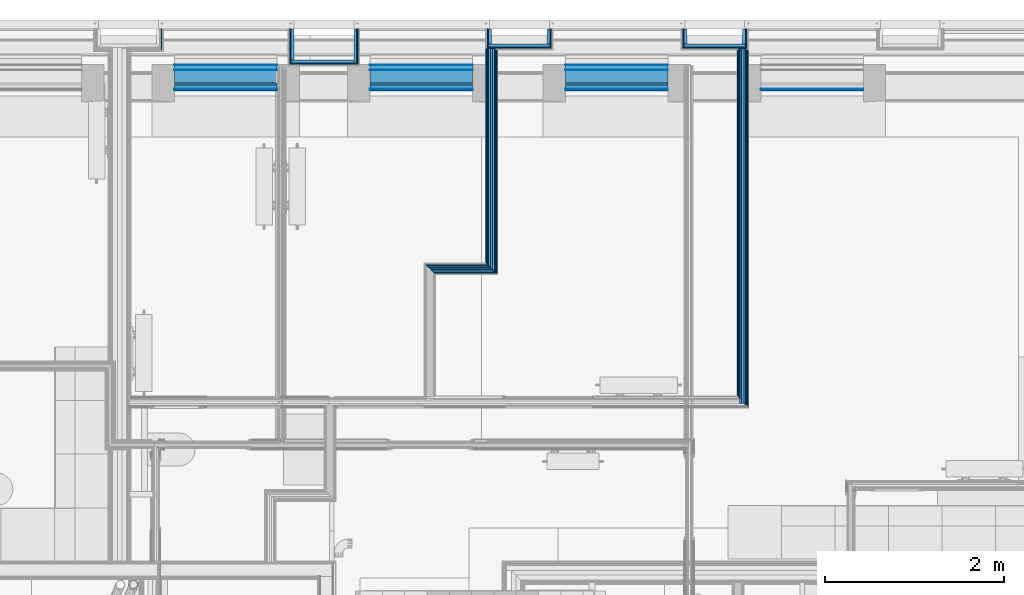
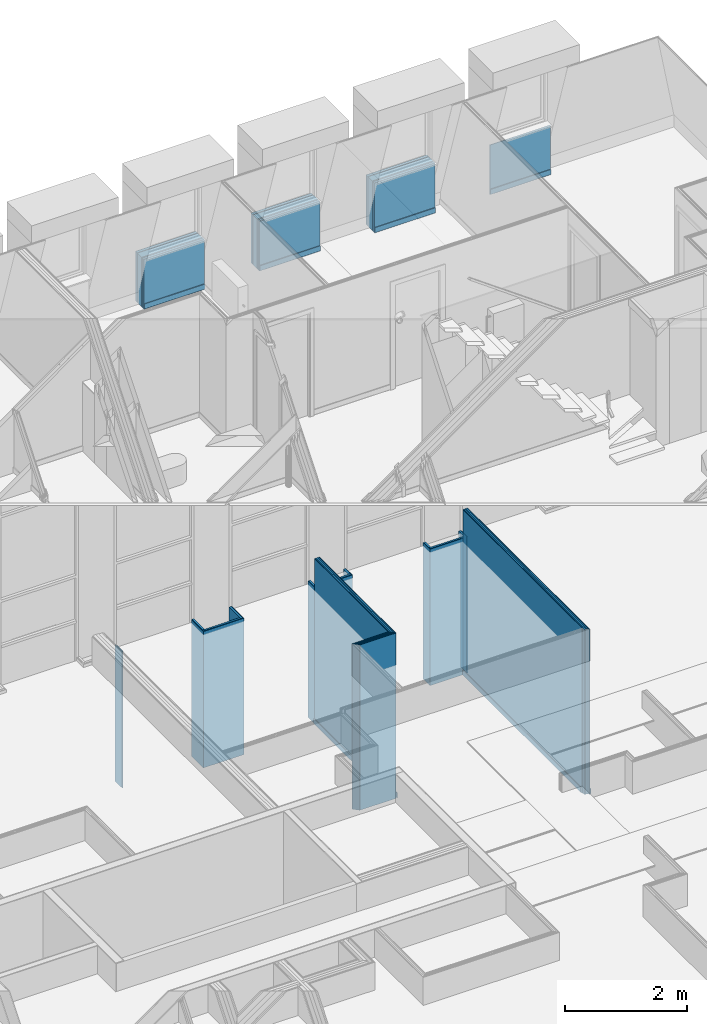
# One storey, part 45 of 169: 64 building element parts, 17 elements without a shape of their own.
"""IFC2X3 building model written with IfcOpenShell, lengths in metres."""

import ifcopenshell
import ifcopenshell.guid

model = None  # the IFC model being written
_history = None  # IfcOwnerHistory: only IFC2X3 demands one
_inside = {}  # id of a spatial element -> (the spatial element, [elements in it])
_under = {}  # id of a project, library or spatial element -> (it, [spatial elements below it])
_declared = {}  # id of a project -> (the project, [libraries it declares])
_typed = {}  # id of a type object -> (the type object, [elements of that type])
_made_of = {}  # id of a material, layer set ... -> (it, [elements and type objects made of it])


def new_model(schema):
    """Start an empty IFC model of exactly this schema.

    Asked for "IFC4X3", IfcOpenShell would pick the latest addendum, in which some entities
    have other attributes; the version numbers below select the first issue.
    IFC2X3 requires an IfcOwnerHistory on every rooted entity: one is made here for all.
    """
    global model, _history
    if schema == "IFC4X3":
        model = ifcopenshell.file(schema_version=(4, 3, 0, 0))
    else:
        model = ifcopenshell.file(schema=schema)
    _inside.clear()
    _under.clear()
    _declared.clear()
    _typed.clear()
    _made_of.clear()
    _history = None
    if model.schema == "IFC2X3":
        org = make("IfcOrganization", Name="unknown")
        user = make(
            "IfcPersonAndOrganization",
            ThePerson=make("IfcPerson", FamilyName="unknown"),
            TheOrganization=org,
        )
        app = make(
            "IfcApplication",
            ApplicationDeveloper=org,
            Version="unknown",
            ApplicationFullName="unknown",
            ApplicationIdentifier="unknown",
        )
        _history = make(
            "IfcOwnerHistory",
            OwningUser=user,
            OwningApplication=app,
            ChangeAction="ADDED",
            CreationDate=0,
        )
    return model


def make(cls, **values):
    """One entity of the class cls with the attributes given. An attribute that is None is left unset."""
    return model.create_entity(
        cls, **{name: value for name, value in values.items() if value is not None}
    )


def entity(cls, *values):
    """Any entity or typed value of the class cls, its attributes in the order of the schema. None: left unset."""
    e = model.create_entity(cls)
    for i, value in enumerate(values):
        if value is not None:
            e[i] = value
    return e


def rooted(cls, **values):
    """An entity with a GlobalId (a new one), such as an element, a storey or a relation."""
    return make(cls, GlobalId=ifcopenshell.guid.new(), OwnerHistory=_history, **values)


def si_unit(unit_type, name, prefix=None):
    """IfcSIUnit, for example si_unit("LENGTHUNIT", "METRE", prefix="MILLI")."""
    return make("IfcSIUnit", UnitType=unit_type, Prefix=prefix, Name=name)


def converted_unit(unit_type, name, factor, base, dimensions=None, offset=None):
    """IfcConversionBasedUnit, such as the inch: factor (a typed value) times the base unit."""
    return make(
        "IfcConversionBasedUnit"
        if offset is None
        else "IfcConversionBasedUnitWithOffset",
        ConversionOffset=offset,
        Dimensions=None
        if dimensions is None
        else entity("IfcDimensionalExponents", *dimensions),
        UnitType=unit_type,
        Name=name,
        ConversionFactor=make(
            "IfcMeasureWithUnit", ValueComponent=factor, UnitComponent=base
        ),
    )


def derived_unit(unit_type, elements):
    """IfcDerivedUnit: a product of units, each with its exponent."""
    return make(
        "IfcDerivedUnit",
        Elements=[
            make("IfcDerivedUnitElement", Unit=unit, Exponent=power)
            for unit, power in elements
        ],
        UnitType=unit_type,
    )


def money_unit(currency):
    """IfcMonetaryUnit."""
    return make("IfcMonetaryUnit", Currency=currency)


def assignment(units):
    """IfcUnitAssignment: the units of a project."""
    return None if units is None else make("IfcUnitAssignment", Units=units)


def point(xyz):
    """IfcCartesianPoint."""
    return None if xyz is None else make("IfcCartesianPoint", Coordinates=xyz)


def direction(xyz):
    """IfcDirection."""
    return None if xyz is None else make("IfcDirection", DirectionRatios=xyz)


def frame(location, z_axis=None, x_axis=None):
    """IfcAxis2Placement3D, a coordinate frame: its origin and axes. An axis left out is left unset."""
    return make(
        "IfcAxis2Placement3D",
        Location=point(location),
        Axis=direction(z_axis),
        RefDirection=direction(x_axis),
    )


def frame_2d(location, x_axis=None):
    """IfcAxis2Placement2D, a coordinate frame in the plane: its origin and x axis."""
    return make(
        "IfcAxis2Placement2D", Location=point(location), RefDirection=direction(x_axis)
    )


def origin_with_axes():
    """The frame at (0, 0, 0) with the z axis (0, 0, 1) and the x axis (1, 0, 0) written out."""
    return frame((0.0, 0.0, 0.0), z_axis=(0.0, 0.0, 1.0), x_axis=(1.0, 0.0, 0.0))


def place(relative_to, where):
    """IfcLocalPlacement: puts the frame where relative to a parent placement (None: the world)."""
    return make(
        "IfcLocalPlacement", PlacementRelTo=relative_to, RelativePlacement=where
    )


def context(
    kind, dimensions, precision=None, world=None, true_north=None, identifier=None
):
    """IfcGeometricRepresentationContext, for example the 3D "Model" context."""
    return make(
        "IfcGeometricRepresentationContext",
        ContextIdentifier=identifier,
        ContextType=kind,
        CoordinateSpaceDimension=dimensions,
        Precision=precision,
        WorldCoordinateSystem=world,
        TrueNorth=true_north,
    )


def subcontext(parent, identifier, kind, view, scale=None):
    """IfcGeometricRepresentationSubContext, for example "Body" below "Model"."""
    return make(
        "IfcGeometricRepresentationSubContext",
        ContextIdentifier=identifier,
        ContextType=kind,
        ParentContext=parent,
        TargetScale=scale,
        TargetView=view,
    )


def project(units=None, contexts=None):
    """IfcProject with its units and contexts."""
    return rooted(
        "IfcProject",
        Name="project",
        RepresentationContexts=contexts,
        UnitsInContext=assignment(units),
    )


def spatial(cls, under=None, at=None, **own):
    """A site, building, storey or space (cls), placed at a placement, below another one or the project."""
    s = rooted(cls, ObjectPlacement=at, **own)
    if under is not None:
        _under.setdefault(under.id(), (under, []))[1].append(s)
    return s


def polyline(points):
    """IfcPolyline through the points."""
    return make("IfcPolyline", Points=[point(p) for p in points])


def profile(cls, at=None, kind="AREA", **sizes):
    """A parametric profile (cls). Its sizes go by their IFC names, for example OverallWidth=200.0."""
    return make(cls, ProfileType=kind, Position=at, **sizes)


def rectangle(**sizes):
    """IfcRectangleProfileDef."""
    return profile("IfcRectangleProfileDef", **sizes)


def outline(outer, holes=None, kind="AREA"):
    """IfcArbitraryClosedProfileDef: a profile drawn as a closed curve; with holes, ...WithVoids."""
    if holes is None:
        return make("IfcArbitraryClosedProfileDef", ProfileType=kind, OuterCurve=outer)
    return make(
        "IfcArbitraryProfileDefWithVoids",
        ProfileType=kind,
        OuterCurve=outer,
        InnerCurves=holes,
    )


def extrude(swept, where, along, depth):
    """IfcExtrudedAreaSolid: the profile swept, set in the frame where, extruded along a direction by depth."""
    return make(
        "IfcExtrudedAreaSolid",
        SweptArea=swept,
        Position=where,
        ExtrudedDirection=direction(along),
        Depth=depth,
    )


def shape(context_of_items, identifier, shape_type, items):
    """IfcShapeRepresentation: the items that make up one representation, for example the "Body"."""
    return make(
        "IfcShapeRepresentation",
        ContextOfItems=context_of_items,
        RepresentationIdentifier=identifier,
        RepresentationType=shape_type,
        Items=items,
    )


def material(Name=None, Category=None):
    """IfcMaterial."""
    return make("IfcMaterial", Name=Name, Category=Category)


def made_of(thing, what):
    """Note that an element or type object is made of a material, layer set ...; save() writes the relation."""
    if what is not None:
        _made_of.setdefault(what.id(), (what, []))[1].append(thing)
    return thing


def type_object(cls, material=None, **own):
    """A type object (cls), such as IfcWallType, which elements share."""
    return made_of(rooted(cls, **own), material)


def element(
    cls,
    number,
    at=None,
    inside=None,
    cuts=None,
    type_object=None,
    material=None,
    context=None,
    identifier="Body",
    shape_type=None,
    held_by="IfcProductDefinitionShape",
    body=None,
    shapes=None,
    **own,
):
    """One element of the class cls, such as IfcWall. Its Tag is "e" and its number.

    at: its placement. inside: the storey or other place that contains it. cuts: it is an
    opening in that element (IfcRelVoidsElement). A single representation is given by context,
    identifier, shape_type and body (its items); several are given by shapes. held_by: the class
    of the entity that holds the representations. save() writes the other relations.
    """
    e = rooted(cls, Tag="e%d" % number, ObjectPlacement=at, **own)
    if body is not None:
        shapes = [shape(context, identifier, shape_type, body)]
    if shapes is not None:
        e.Representation = make(held_by, Representations=shapes)
    if inside is not None:
        _inside.setdefault(inside.id(), (inside, []))[1].append(e)
    if cuts is not None:
        rooted(
            "IfcRelVoidsElement", RelatingBuildingElement=cuts, RelatedOpeningElement=e
        )
    if type_object is not None:
        _typed.setdefault(type_object.id(), (type_object, []))[1].append(e)
    return made_of(e, material)


def aggregate(whole, parts):
    """IfcRelAggregates: a whole, such as a stair, and the parts it consists of."""
    return rooted("IfcRelAggregates", RelatingObject=whole, RelatedObjects=parts)


def save(model, path):
    """Write the relations noted so far, then the file.

    IfcRelAggregates (storeys below a building ...), IfcRelContainedInSpatialStructure (elements
    in a storey), IfcRelDefinesByType, IfcRelAssociatesMaterial and IfcRelDeclares: one each for
    every whole, place, type object, material and project.
    """
    for whole, parts in _under.values():
        aggregate(whole, parts)
    for where, things in _inside.values():
        rooted(
            "IfcRelContainedInSpatialStructure",
            RelatedElements=things,
            RelatingStructure=where,
        )
    for kind, things in _typed.values():
        rooted("IfcRelDefinesByType", RelatedObjects=things, RelatingType=kind)
    for what, things in _made_of.values():
        rooted("IfcRelAssociatesMaterial", RelatedObjects=things, RelatingMaterial=what)
    for by, libraries in _declared.values():
        rooted("IfcRelDeclares", RelatingContext=by, RelatedDefinitions=libraries)
    model.write(path)


model = new_model("IFC2X3")

# Units and contexts
model_context = context("Model", 3, precision=1e-05, world=origin_with_axes(), true_north=direction((0.0, 1.0)))
body_context = subcontext(model_context, "Body", "Model", "MODEL_VIEW", scale=1.0)
ifc_project = project(units=[si_unit("LENGTHUNIT", "METRE"), si_unit("AREAUNIT", "SQUARE_METRE"), si_unit("VOLUMEUNIT", "CUBIC_METRE"), si_unit("ABSORBEDDOSEUNIT", "GRAY"), si_unit("AMOUNTOFSUBSTANCEUNIT", "MOLE"), si_unit("DOSEEQUIVALENTUNIT", "SIEVERT"), si_unit("ELECTRICCAPACITANCEUNIT", "FARAD"), si_unit("ELECTRICCHARGEUNIT", "COULOMB"), si_unit("ELECTRICCONDUCTANCEUNIT", "SIEMENS"), si_unit("ELECTRICCURRENTUNIT", "AMPERE"), si_unit("ELECTRICRESISTANCEUNIT", "OHM"), si_unit("ELECTRICVOLTAGEUNIT", "VOLT"), si_unit("ENERGYUNIT", "JOULE"), si_unit("FORCEUNIT", "NEWTON"), si_unit("FREQUENCYUNIT", "HERTZ"), si_unit("ILLUMINANCEUNIT", "LUX"), si_unit("INDUCTANCEUNIT", "HENRY"), si_unit("LUMINOUSFLUXUNIT", "LUMEN"), si_unit("LUMINOUSINTENSITYUNIT", "CANDELA"), si_unit("MAGNETICFLUXDENSITYUNIT", "TESLA"), si_unit("MAGNETICFLUXUNIT", "WEBER"), si_unit("MASSUNIT", "GRAM"), converted_unit("PLANEANGLEUNIT", "degree", entity("IfcReal", 0.0174532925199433), si_unit("PLANEANGLEUNIT", "RADIAN"), dimensions=[0, 0, 0, 0, 0, 0, 0]), si_unit("POWERUNIT", "WATT"), si_unit("PRESSUREUNIT", "PASCAL"), si_unit("RADIOACTIVITYUNIT", "BECQUEREL"), si_unit("SOLIDANGLEUNIT", "STERADIAN"), si_unit("THERMODYNAMICTEMPERATUREUNIT", "KELVIN"), si_unit("TIMEUNIT", "SECOND"), derived_unit("ACCELERATIONUNIT", [(si_unit("LENGTHUNIT", "METRE"), 1), (si_unit("TIMEUNIT", "SECOND"), -2)]), derived_unit("ANGULARVELOCITYUNIT", [(converted_unit("PLANEANGLEUNIT", "degree", entity("IfcReal", 0.0174532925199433), si_unit("PLANEANGLEUNIT", "RADIAN"), dimensions=[0, 0, 0, 0, 0, 0, 0]), 1), (si_unit("TIMEUNIT", "SECOND"), -1)]), derived_unit("CURVATUREUNIT", [(converted_unit("PLANEANGLEUNIT", "degree", entity("IfcReal", 0.0174532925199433), si_unit("PLANEANGLEUNIT", "RADIAN"), dimensions=[0, 0, 0, 0, 0, 0, 0]), 1), (si_unit("LENGTHUNIT", "METRE"), -1)]), derived_unit("DYNAMICVISCOSITYUNIT", [(si_unit("PRESSUREUNIT", "PASCAL"), 1), (si_unit("TIMEUNIT", "SECOND"), 1)]), derived_unit("HEATFLUXDENSITYUNIT", [(si_unit("POWERUNIT", "WATT"), 1), (si_unit("LENGTHUNIT", "METRE"), -2)]), derived_unit("HEATINGVALUEUNIT", [(si_unit("ENERGYUNIT", "JOULE"), 1), (si_unit("MASSUNIT", "GRAM"), -1)]), derived_unit("INTEGERCOUNTRATEUNIT", [(si_unit("TIMEUNIT", "SECOND"), -1)]), derived_unit("IONCONCENTRATIONUNIT", [(si_unit("MASSUNIT", "GRAM"), 1), (si_unit("VOLUMEUNIT", "CUBIC_METRE"), -1)]), derived_unit("ISOTHERMALMOISTURECAPACITYUNIT", [(si_unit("VOLUMEUNIT", "CUBIC_METRE"), 1), (si_unit("MASSUNIT", "GRAM"), -1)]), derived_unit("KINEMATICVISCOSITYUNIT", [(si_unit("AREAUNIT", "SQUARE_METRE"), 1), (si_unit("TIMEUNIT", "SECOND"), -1)]), derived_unit("LINEARFORCEUNIT", [(si_unit("FORCEUNIT", "NEWTON"), 1), (si_unit("LENGTHUNIT", "METRE"), -1)]), derived_unit("LINEARMOMENTUNIT", [(si_unit("FORCEUNIT", "NEWTON"), 1), (si_unit("LENGTHUNIT", "METRE"), -1)]), derived_unit("LINEARSTIFFNESSUNIT", [(si_unit("FORCEUNIT", "NEWTON"), 1), (si_unit("LENGTHUNIT", "METRE"), -1)]), derived_unit("LINEARVELOCITYUNIT", [(si_unit("LENGTHUNIT", "METRE"), 1), (si_unit("TIMEUNIT", "SECOND"), -1)]), derived_unit("LUMINOUSINTENSITYDISTRIBUTIONUNIT", [(si_unit("LUMINOUSINTENSITYUNIT", "CANDELA"), 1), (si_unit("LUMINOUSFLUXUNIT", "LUMEN"), -1)]), derived_unit("MASSDENSITYUNIT", [(si_unit("MASSUNIT", "GRAM"), 1), (si_unit("VOLUMEUNIT", "CUBIC_METRE"), -1)]), derived_unit("MASSFLOWRATEUNIT", [(si_unit("MASSUNIT", "GRAM"), 1), (si_unit("TIMEUNIT", "SECOND"), -1)]), derived_unit("MASSPERLENGTHUNIT", [(si_unit("MASSUNIT", "GRAM"), 1), (si_unit("LENGTHUNIT", "METRE"), -1)]), derived_unit("MODULUSOFELASTICITYUNIT", [(si_unit("FORCEUNIT", "NEWTON"), 1), (si_unit("AREAUNIT", "SQUARE_METRE"), -1)]), derived_unit("MODULUSOFLINEARSUBGRADEREACTIONUNIT", [(si_unit("FORCEUNIT", "NEWTON"), 1), (si_unit("LENGTHUNIT", "METRE"), -2)]), derived_unit("MODULUSOFROTATIONALSUBGRADEREACTIONUNIT", [(si_unit("FORCEUNIT", "NEWTON"), 1), (si_unit("LENGTHUNIT", "METRE"), 1)]), derived_unit("MODULUSOFSUBGRADEREACTIONUNIT", [(si_unit("FORCEUNIT", "NEWTON"), 1), (si_unit("VOLUMEUNIT", "CUBIC_METRE"), -1)]), derived_unit("MOISTUREDIFFUSIVITYUNIT", [(si_unit("VOLUMEUNIT", "CUBIC_METRE"), 1), (si_unit("TIMEUNIT", "SECOND"), -1)]), derived_unit("MOLECULARWEIGHTUNIT", [(si_unit("MASSUNIT", "GRAM"), 1), (si_unit("AMOUNTOFSUBSTANCEUNIT", "MOLE"), -1)]), derived_unit("PLANARFORCEUNIT", [(si_unit("FORCEUNIT", "NEWTON"), 1), (si_unit("LENGTHUNIT", "METRE"), -2)]), derived_unit("ROTATIONALFREQUENCYUNIT", [(si_unit("TIMEUNIT", "SECOND"), -1)]), derived_unit("ROTATIONALMASSUNIT", [(si_unit("MASSUNIT", "GRAM"), 1), (si_unit("LENGTHUNIT", "METRE"), 2)]), derived_unit("ROTATIONALSTIFFNESSUNIT", [(si_unit("FORCEUNIT", "NEWTON"), 1), (si_unit("LENGTHUNIT", "METRE"), 1), (converted_unit("PLANEANGLEUNIT", "degree", entity("IfcReal", 0.0174532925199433), si_unit("PLANEANGLEUNIT", "RADIAN"), dimensions=[0, 0, 0, 0, 0, 0, 0]), -1)]), derived_unit("SECTIONAREAINTEGRALUNIT", [(si_unit("LENGTHUNIT", "METRE"), 5)]), derived_unit("SECTIONMODULUSUNIT", [(si_unit("LENGTHUNIT", "METRE"), 3)]), derived_unit("SHEARMODULUSUNIT", [(si_unit("FORCEUNIT", "NEWTON"), 1), (si_unit("AREAUNIT", "SQUARE_METRE"), -1)]), derived_unit("SOUNDPOWERUNIT", [(si_unit("ENERGYUNIT", "JOULE"), 1), (si_unit("TIMEUNIT", "SECOND"), -1)]), derived_unit("SPECIFICHEATCAPACITYUNIT", [(si_unit("FORCEUNIT", "NEWTON"), 1), (si_unit("MASSUNIT", "GRAM"), -1), (si_unit("THERMODYNAMICTEMPERATUREUNIT", "KELVIN"), -1)]), derived_unit("TEMPERATUREGRADIENTUNIT", [(si_unit("THERMODYNAMICTEMPERATUREUNIT", "KELVIN"), 1), (si_unit("LENGTHUNIT", "METRE"), -1)]), derived_unit("THERMALADMITTANCEUNIT", [(si_unit("POWERUNIT", "WATT"), 1), (si_unit("AREAUNIT", "SQUARE_METRE"), -1), (si_unit("THERMODYNAMICTEMPERATUREUNIT", "KELVIN"), -1)]), derived_unit("THERMALCONDUCTANCEUNIT", [(si_unit("POWERUNIT", "WATT"), 1), (si_unit("LENGTHUNIT", "METRE"), -1), (si_unit("THERMODYNAMICTEMPERATUREUNIT", "KELVIN"), -1)]), derived_unit("THERMALEXPANSIONCOEFFICIENTUNIT", [(si_unit("THERMODYNAMICTEMPERATUREUNIT", "KELVIN"), -1)]), derived_unit("THERMALRESISTANCEUNIT", [(si_unit("AREAUNIT", "SQUARE_METRE"), 1), (si_unit("POWERUNIT", "WATT"), -1)]), derived_unit("THERMALTRANSMITTANCEUNIT", [(si_unit("POWERUNIT", "WATT"), 1), (si_unit("AREAUNIT", "SQUARE_METRE"), -1), (si_unit("THERMODYNAMICTEMPERATUREUNIT", "KELVIN"), -1)]), derived_unit("TORQUEUNIT", [(si_unit("FORCEUNIT", "NEWTON"), 1), (si_unit("LENGTHUNIT", "METRE"), 1)]), derived_unit("VAPORPERMEABILITYUNIT", [(si_unit("MASSUNIT", "GRAM"), 1), (si_unit("TIMEUNIT", "SECOND"), -1)]), derived_unit("VOLUMETRICFLOWRATEUNIT", [(si_unit("VOLUMEUNIT", "CUBIC_METRE"), 1), (si_unit("TIMEUNIT", "SECOND"), -1)]), derived_unit("WARPINGCONSTANTUNIT", [(si_unit("LENGTHUNIT", "METRE"), 6)]), derived_unit("WARPINGMOMENTUNIT", [(si_unit("FORCEUNIT", "NEWTON"), 1), (si_unit("LENGTHUNIT", "METRE"), 2)]), money_unit("GBP")], contexts=[model_context])

# Site, building, storey
site_placement = place(None, origin_with_axes())
site = spatial("IfcSite", under=ifc_project, at=site_placement, Name="Site", CompositionType="ELEMENT")
building_placement = place(site_placement, origin_with_axes())
building = spatial("IfcBuilding", under=site, at=building_placement, Name="Building01", CompositionType="ELEMENT")
storey_placement = place(building_placement, frame((0.0, 0.0, 5.15), z_axis=(0.0, 0.0, 1.0), x_axis=(1.0, 0.0, 0.0)))
storey = spatial("IfcBuildingStorey", under=building, at=storey_placement, Name="1F", CompositionType="ELEMENT", Elevation=5.15)

# Wall, building element parts
wall_type_1 = type_object("IfcWallType", Name="SHE_A-Walls_Type05a_Partition_95mm_tall", PredefinedType="NOTDEFINED")
wall_1_placement = place(storey_placement, frame((19.085284, 12.099378, 0.0), z_axis=(0.0, 0.0, 1.0), x_axis=(1.0, 0.0, 0.0)))
wall_1 = element("IfcWall", 1, at=wall_1_placement, inside=storey, type_object=wall_type_1, Name="5A", ObjectType="SHE_A-Walls_Type05a_Partition_95mm_tall")
ifc_material_1 = material(Name="A_BSUK_WallInternal_Finishes_Plasterboard")
placement_1 = place(wall_1_placement, origin_with_axes())
building_element_part_1 = element("IfcBuildingElementPart", 2, at=placement_1, material=ifc_material_1, Name="2", context=body_context, shape_type="SweptSolid", body=[
    extrude(outline(polyline([(0.712716, -0.023), (0.023, -0.023), (0.035, -0.035), (0.724716, -0.035), (0.712716, -0.023)])), origin_with_axes(), (0.0, 0.0, 1.0), 3.32),
])
ifc_material_2 = material(Name="Air Cavity")
building_element_part_2 = element("IfcBuildingElementPart", 3, at=placement_1, material=ifc_material_2, Name="3", context=body_context, shape_type="SweptSolid", body=[
    extrude(outline(polyline([(0.689716, 0.0), (0.0, 0.0), (0.023, -0.023), (0.712716, -0.023), (0.689716, 0.0)])), origin_with_axes(), (0.0, 0.0, 1.0), 3.32),
])
ifc_material_3 = material(Name="A_BSUK_Insulation")
building_element_part_3 = element("IfcBuildingElementPart", 4, at=placement_1, material=ifc_material_3, Name="4", context=body_context, shape_type="SweptSolid", body=[
    extrude(outline(polyline([(0.664716, 0.025), (-0.025, 0.025), (0.0, 0.0), (0.689716, 0.0), (0.664716, 0.025)])), origin_with_axes(), (0.0, 0.0, 1.0), 3.32),
])
building_element_part_4 = element("IfcBuildingElementPart", 5, at=placement_1, material=ifc_material_2, Name="5", context=body_context, shape_type="SweptSolid", body=[
    extrude(outline(polyline([(0.641716, 0.048), (-0.048, 0.048), (-0.025, 0.025), (0.664716, 0.025), (0.641716, 0.048)])), origin_with_axes(), (0.0, 0.0, 1.0), 3.32),
])
building_element_part_5 = element("IfcBuildingElementPart", 6, at=placement_1, material=ifc_material_1, Name="6", context=body_context, shape_type="SweptSolid", body=[
    extrude(outline(polyline([(0.629716, 0.06), (-0.06, 0.06), (-0.048, 0.048), (0.641716, 0.048), (0.629716, 0.06)])), origin_with_axes(), (0.0, 0.0, 1.0), 3.32),
])
aggregate(wall_1, [building_element_part_1, building_element_part_2, building_element_part_3, building_element_part_4, building_element_part_5])

wall_2_placement = place(storey_placement, frame((19.775, 12.099378, 0.0), z_axis=(0.0, 0.0, 1.0), x_axis=(0.0, 1.0, 0.0)))
wall_2 = element("IfcWall", 7, at=wall_2_placement, inside=storey, type_object=wall_type_1, Name="5A", ObjectType="SHE_A-Walls_Type05a_Partition_95mm_tall")
ifc_material_4 = material(Name="A_BSUK_Walls_Timber")
placement_2 = place(wall_2_placement, origin_with_axes())
building_element_part_6 = element("IfcBuildingElementPart", 8, at=placement_2, material=ifc_material_4, Name="1", context=body_context, shape_type="SweptSolid", body=[
    extrude(outline(polyline([(2.467622, -0.035), (-0.035, -0.035), (-0.05, -0.05), (2.467622, -0.05), (2.467622, -0.035)])), frame((0.0, 0.0, 0.015), z_axis=(0.0, 0.0, 1.0), x_axis=(1.0, 0.0, 0.0)), (0.0, 0.0, 1.0), 0.1),
])
building_element_part_7 = element("IfcBuildingElementPart", 9, at=placement_2, material=ifc_material_1, Name="2", context=body_context, shape_type="SweptSolid", body=[
    extrude(outline(polyline([(2.482622, -0.023), (-0.023, -0.023), (-0.035, -0.035), (2.482622, -0.035), (2.482622, -0.023)])), origin_with_axes(), (0.0, 0.0, 1.0), 3.32),
])
building_element_part_8 = element("IfcBuildingElementPart", 10, at=placement_2, material=ifc_material_2, Name="3", context=body_context, shape_type="SweptSolid", body=[
    extrude(outline(polyline([(2.482622, 0.0), (0.0, 0.0), (-0.023, -0.023), (2.482622, -0.023), (2.482622, 0.0)])), origin_with_axes(), (0.0, 0.0, 1.0), 3.32),
])
building_element_part_9 = element("IfcBuildingElementPart", 11, at=placement_2, material=ifc_material_3, Name="4", context=body_context, shape_type="SweptSolid", body=[
    extrude(outline(polyline([(2.482622, 0.025), (0.025, 0.025), (0.0, 0.0), (2.482622, 0.0), (2.482622, 0.025)])), origin_with_axes(), (0.0, 0.0, 1.0), 3.32),
])
building_element_part_10 = element("IfcBuildingElementPart", 12, at=placement_2, material=ifc_material_2, Name="5", context=body_context, shape_type="SweptSolid", body=[
    extrude(outline(polyline([(2.482622, 0.048), (0.048, 0.048), (0.025, 0.025), (2.482622, 0.025), (2.482622, 0.048)])), origin_with_axes(), (0.0, 0.0, 1.0), 3.32),
])
building_element_part_11 = element("IfcBuildingElementPart", 13, at=placement_2, material=ifc_material_1, Name="6", context=body_context, shape_type="SweptSolid", body=[
    extrude(outline(polyline([(2.482622, 0.06), (0.06, 0.06), (0.048, 0.048), (2.482622, 0.048), (2.482622, 0.06)])), origin_with_axes(), (0.0, 0.0, 1.0), 3.32),
])
building_element_part_12 = element("IfcBuildingElementPart", 14, at=placement_2, material=ifc_material_4, Name="7", context=body_context, shape_type="SweptSolid", body=[
    extrude(outline(polyline([(2.482622, 0.075), (0.075, 0.075), (0.06, 0.06), (2.482622, 0.06), (2.482622, 0.075)])), frame((0.0, 0.0, 0.015), z_axis=(0.0, 0.0, 1.0), x_axis=(1.0, 0.0, 0.0)), (0.0, 0.0, 1.0), 0.1),
])
aggregate(wall_2, [building_element_part_6, building_element_part_7, building_element_part_8, building_element_part_9, building_element_part_10, building_element_part_11, building_element_part_12])

wall_3_placement = place(storey_placement, frame((22.59, 10.605, 0.0), z_axis=(0.0, 0.0, 1.0), x_axis=(0.0, 1.0, 0.0)))
wall_3 = element("IfcWall", 15, at=wall_3_placement, inside=storey, type_object=wall_type_1, Name="5A", ObjectType="SHE_A-Walls_Type05a_Partition_95mm_tall")
placement_3 = place(wall_3_placement, origin_with_axes())
building_element_part_13 = element("IfcBuildingElementPart", 16, at=placement_3, material=ifc_material_4, Name="1", context=body_context, shape_type="SweptSolid", body=[
    extrude(outline(polyline([(3.962, -0.035), (-0.035, -0.035), (-0.05, -0.05), (3.962, -0.05), (3.962, -0.035)])), frame((0.0, 0.0, 0.015), z_axis=(0.0, 0.0, 1.0), x_axis=(1.0, 0.0, 0.0)), (0.0, 0.0, 1.0), 0.1),
])
building_element_part_14 = element("IfcBuildingElementPart", 17, at=placement_3, material=ifc_material_1, Name="2", context=body_context, shape_type="SweptSolid", body=[
    extrude(outline(polyline([(3.977, -0.023), (-0.023, -0.023), (-0.035, -0.035), (3.977, -0.035), (3.977, -0.023)])), origin_with_axes(), (0.0, 0.0, 1.0), 3.32),
])
building_element_part_15 = element("IfcBuildingElementPart", 18, at=placement_3, material=ifc_material_2, Name="3", context=body_context, shape_type="SweptSolid", body=[
    extrude(outline(polyline([(3.977, 0.0), (0.0, 0.0), (-0.023, -0.023), (3.977, -0.023), (3.977, 0.0)])), origin_with_axes(), (0.0, 0.0, 1.0), 3.32),
])
building_element_part_16 = element("IfcBuildingElementPart", 19, at=placement_3, material=ifc_material_3, Name="4", context=body_context, shape_type="SweptSolid", body=[
    extrude(rectangle(XDim=3.977, YDim=0.025, at=frame_2d((1.9885, 0.0125), x_axis=(-1.0, 0.0))), origin_with_axes(), (0.0, 0.0, 1.0), 3.32),
])
building_element_part_17 = element("IfcBuildingElementPart", 20, at=placement_3, material=ifc_material_2, Name="5", context=body_context, shape_type="SweptSolid", body=[
    extrude(rectangle(XDim=3.977, YDim=0.023, at=frame_2d((1.9885, 0.0365), x_axis=(-1.0, 0.0))), origin_with_axes(), (0.0, 0.0, 1.0), 3.32),
])
building_element_part_18 = element("IfcBuildingElementPart", 21, at=placement_3, material=ifc_material_1, Name="6", context=body_context, shape_type="SweptSolid", body=[
    extrude(outline(polyline([(3.977, 0.06), (0.06, 0.06), (0.048, 0.048), (3.977, 0.048), (3.977, 0.06)])), origin_with_axes(), (0.0, 0.0, 1.0), 3.32),
])
building_element_part_19 = element("IfcBuildingElementPart", 22, at=placement_3, material=ifc_material_4, Name="7", context=body_context, shape_type="SweptSolid", body=[
    extrude(outline(polyline([(3.962, 0.075), (0.075, 0.075), (0.06, 0.06), (3.962, 0.06), (3.962, 0.075)])), frame((0.0, 0.0, 0.015), z_axis=(0.0, 0.0, 1.0), x_axis=(1.0, 0.0, 0.0)), (0.0, 0.0, 1.0), 0.1),
])
aggregate(wall_3, [building_element_part_13, building_element_part_14, building_element_part_15, building_element_part_16, building_element_part_17, building_element_part_18, building_element_part_19])

# Wall, building element part
wall_type_2 = type_object("IfcWallType", Name="SHE_A-Walls_Type06f_ExternalWallInsulation_48+15mm", PredefinedType="NOTDEFINED")
wall_4_placement = place(storey_placement, frame((16.025, 14.8, 0.0), z_axis=(0.0, 0.0, 1.0), x_axis=(0.0, -1.0, 0.0)))
wall_4 = element("IfcWall", 23, at=wall_4_placement, inside=storey, type_object=wall_type_2, Name="6F", ObjectType="SHE_A-Walls_Type06f_ExternalWallInsulation_48+15mm")
building_element_part_20_placement = place(wall_4_placement, origin_with_axes())
building_element_part_20 = element("IfcBuildingElementPart", 24, at=building_element_part_20_placement, material=ifc_material_1, Name="3", context=body_context, shape_type="SweptSolid", body=[
    extrude(outline(polyline([(0.233, 0.045), (0.0, 0.045), (0.0, 0.03), (0.218, 0.03), (0.233, 0.045)])), origin_with_axes(), (0.0, 0.0, 1.0), 2.74),
])
aggregate(wall_4, [building_element_part_20])

# Wall, building element parts
wall_type_3 = type_object("IfcWallType", Name="SHE_A-Walls_Type06d_ExternalWallInsulation_48mm", PredefinedType="NOTDEFINED")
wall_5_placement = place(storey_placement, frame((22.577, 14.8, 0.0), z_axis=(0.0, 0.0, 1.0), x_axis=(0.0, -1.0, 0.0)))
wall_5 = element("IfcWall", 25, at=wall_5_placement, inside=storey, type_object=wall_type_3, Name="6D", ObjectType="SHE_A-Walls_Type06d_ExternalWallInsulation_48mm")
placement_4 = place(wall_5_placement, origin_with_axes())
building_element_part_21 = element("IfcBuildingElementPart", 26, at=placement_4, material=ifc_material_3, Name="1", context=body_context, shape_type="SweptSolid", body=[
    extrude(rectangle(XDim=0.17, YDim=0.036, at=frame_2d((0.085, 0.018), x_axis=(-1.0, 0.0))), origin_with_axes(), (0.0, 0.0, 1.0), 2.74),
])
building_element_part_22 = element("IfcBuildingElementPart", 27, at=placement_4, material=ifc_material_1, Name="2", context=body_context, shape_type="SweptSolid", body=[
    extrude(outline(polyline([(0.218, 0.048), (0.0, 0.048), (0.0, 0.035), (0.205, 0.035), (0.218, 0.048)])), origin_with_axes(), (0.0, 0.0, 1.0), 2.74),
])
aggregate(wall_5, [building_element_part_21, building_element_part_22])

wall_6_placement = place(storey_placement, frame((22.613, 14.63, 0.0), z_axis=(0.0, 0.0, 1.0), x_axis=(-1.0, 0.0, 0.0)))
wall_6 = element("IfcWall", 28, at=wall_6_placement, inside=storey, type_object=wall_type_3, Name="6D", ObjectType="SHE_A-Walls_Type06d_ExternalWallInsulation_48mm")
placement_5 = place(wall_6_placement, origin_with_axes())
building_element_part_23 = element("IfcBuildingElementPart", 29, at=placement_5, material=ifc_material_3, Name="1", context=body_context, shape_type="SweptSolid", body=[
    extrude(rectangle(XDim=0.696, YDim=0.036, at=frame_2d((0.348, 0.018), x_axis=(-1.0, 0.0))), origin_with_axes(), (0.0, 0.0, 1.0), 2.74),
])
building_element_part_24 = element("IfcBuildingElementPart", 30, at=placement_5, material=ifc_material_1, Name="2", context=body_context, shape_type="SweptSolid", body=[
    extrude(outline(polyline([(0.708, 0.048), (-0.012, 0.048), (0.001, 0.035), (0.695, 0.035), (0.708, 0.048)])), origin_with_axes(), (0.0, 0.0, 1.0), 2.74),
])
aggregate(wall_6, [building_element_part_23, building_element_part_24])

wall_7_placement = place(storey_placement, frame((21.953, 14.63, 0.0), z_axis=(0.0, 0.0, 1.0), x_axis=(0.0, 1.0, 0.0)))
wall_7 = element("IfcWall", 31, at=wall_7_placement, inside=storey, type_object=wall_type_3, Name="6D", ObjectType="SHE_A-Walls_Type06d_ExternalWallInsulation_48mm")
placement_6 = place(wall_7_placement, origin_with_axes())
building_element_part_25 = element("IfcBuildingElementPart", 32, at=placement_6, material=ifc_material_3, Name="1", context=body_context, shape_type="SweptSolid", body=[
    extrude(rectangle(XDim=0.036, YDim=0.17, at=frame_2d((0.085, 0.018), x_axis=(0.0, -1.0))), origin_with_axes(), (0.0, 0.0, 1.0), 2.74),
])
building_element_part_26 = element("IfcBuildingElementPart", 33, at=placement_6, material=ifc_material_1, Name="2", context=body_context, shape_type="SweptSolid", body=[
    extrude(outline(polyline([(-0.048, 0.048), (-0.035, 0.035), (0.17, 0.035), (0.17, 0.048), (-0.048, 0.048)])), origin_with_axes(), (0.0, 0.0, 1.0), 2.74),
])
aggregate(wall_7, [building_element_part_25, building_element_part_26])

wall_8_placement = place(storey_placement, frame((20.387, 14.8, 0.0), z_axis=(0.0, 0.0, 1.0), x_axis=(0.0, -1.0, 0.0)))
wall_8 = element("IfcWall", 34, at=wall_8_placement, inside=storey, type_object=wall_type_3, Name="6D", ObjectType="SHE_A-Walls_Type06d_ExternalWallInsulation_48mm")
placement_7 = place(wall_8_placement, origin_with_axes())
building_element_part_27 = element("IfcBuildingElementPart", 35, at=placement_7, material=ifc_material_3, Name="1", context=body_context, shape_type="SweptSolid", body=[
    extrude(rectangle(XDim=0.17, YDim=0.036, at=frame_2d((0.085, 0.018), x_axis=(-1.0, 0.0))), origin_with_axes(), (0.0, 0.0, 1.0), 2.74),
])
building_element_part_28 = element("IfcBuildingElementPart", 36, at=placement_7, material=ifc_material_1, Name="2", context=body_context, shape_type="SweptSolid", body=[
    extrude(outline(polyline([(0.218, 0.048), (0.0, 0.048), (0.0, 0.035), (0.205, 0.035), (0.218, 0.048)])), origin_with_axes(), (0.0, 0.0, 1.0), 2.74),
])
aggregate(wall_8, [building_element_part_27, building_element_part_28])

wall_9_placement = place(storey_placement, frame((20.423, 14.63, 0.0), z_axis=(0.0, 0.0, 1.0), x_axis=(-1.0, 0.0, 0.0)))
wall_9 = element("IfcWall", 37, at=wall_9_placement, inside=storey, type_object=wall_type_3, Name="6D", ObjectType="SHE_A-Walls_Type06d_ExternalWallInsulation_48mm")
placement_8 = place(wall_9_placement, origin_with_axes())
building_element_part_29 = element("IfcBuildingElementPart", 38, at=placement_8, material=ifc_material_3, Name="1", context=body_context, shape_type="SweptSolid", body=[
    extrude(rectangle(XDim=0.696, YDim=0.036, at=frame_2d((0.348, 0.018), x_axis=(-1.0, 0.0))), origin_with_axes(), (0.0, 0.0, 1.0), 2.74),
])
building_element_part_30 = element("IfcBuildingElementPart", 39, at=placement_8, material=ifc_material_1, Name="2", context=body_context, shape_type="SweptSolid", body=[
    extrude(outline(polyline([(0.708, 0.048), (-0.012, 0.048), (0.001, 0.035), (0.695, 0.035), (0.708, 0.048)])), origin_with_axes(), (0.0, 0.0, 1.0), 2.74),
])
aggregate(wall_9, [building_element_part_29, building_element_part_30])

wall_10_placement = place(storey_placement, frame((19.763, 14.63, 0.0), z_axis=(0.0, 0.0, 1.0), x_axis=(0.0, 1.0, 0.0)))
wall_10 = element("IfcWall", 40, at=wall_10_placement, inside=storey, type_object=wall_type_3, Name="6D", ObjectType="SHE_A-Walls_Type06d_ExternalWallInsulation_48mm")
placement_9 = place(wall_10_placement, origin_with_axes())
building_element_part_31 = element("IfcBuildingElementPart", 41, at=placement_9, material=ifc_material_3, Name="1", context=body_context, shape_type="SweptSolid", body=[
    extrude(rectangle(XDim=0.036, YDim=0.17, at=frame_2d((0.085, 0.018), x_axis=(0.0, -1.0))), origin_with_axes(), (0.0, 0.0, 1.0), 2.74),
])
building_element_part_32 = element("IfcBuildingElementPart", 42, at=placement_9, material=ifc_material_1, Name="2", context=body_context, shape_type="SweptSolid", body=[
    extrude(outline(polyline([(-0.048, 0.048), (-0.035, 0.035), (0.17, 0.035), (0.17, 0.048), (-0.048, 0.048)])), origin_with_axes(), (0.0, 0.0, 1.0), 2.74),
])
aggregate(wall_10, [building_element_part_31, building_element_part_32])

wall_11_placement = place(storey_placement, frame((18.22, 14.8, 0.0), z_axis=(0.0, 0.0, 1.0), x_axis=(0.0, -1.0, 0.0)))
wall_11 = element("IfcWall", 43, at=wall_11_placement, inside=storey, type_object=wall_type_3, Name="6D", ObjectType="SHE_A-Walls_Type06d_ExternalWallInsulation_48mm")
placement_10 = place(wall_11_placement, origin_with_axes())
building_element_part_33 = element("IfcBuildingElementPart", 44, at=placement_10, material=ifc_material_3, Name="1", context=body_context, shape_type="SweptSolid", body=[
    extrude(rectangle(XDim=0.386, YDim=0.036, at=frame_2d((0.193, 0.018), x_axis=(-1.0, 0.0))), origin_with_axes(), (0.0, 0.0, 1.0), 2.74),
])
building_element_part_34 = element("IfcBuildingElementPart", 45, at=placement_10, material=ifc_material_1, Name="2", context=body_context, shape_type="SweptSolid", body=[
    extrude(outline(polyline([(0.398, 0.048), (0.0, 0.048), (0.0, 0.035), (0.385, 0.035), (0.398, 0.048)])), origin_with_axes(), (0.0, 0.0, 1.0), 2.74),
])
aggregate(wall_11, [building_element_part_33, building_element_part_34])

wall_12_placement = place(storey_placement, frame((18.22, 14.45, 0.0), z_axis=(0.0, 0.0, 1.0), x_axis=(-1.0, 0.0, 0.0)))
wall_12 = element("IfcWall", 46, at=wall_12_placement, inside=storey, type_object=wall_type_3, Name="6D", ObjectType="SHE_A-Walls_Type06d_ExternalWallInsulation_48mm")
placement_11 = place(wall_12_placement, origin_with_axes())
building_element_part_35 = element("IfcBuildingElementPart", 47, at=placement_11, material=ifc_material_3, Name="1", context=body_context, shape_type="SweptSolid", body=[
    extrude(rectangle(XDim=0.706, YDim=0.036, at=frame_2d((0.353, 0.018), x_axis=(-1.0, 0.0))), origin_with_axes(), (0.0, 0.0, 1.0), 2.74),
])
building_element_part_36 = element("IfcBuildingElementPart", 48, at=placement_11, material=ifc_material_1, Name="2", context=body_context, shape_type="SweptSolid", body=[
    extrude(outline(polyline([(0.718, 0.048), (-0.048, 0.048), (-0.035, 0.035), (0.705, 0.035), (0.718, 0.048)])), origin_with_axes(), (0.0, 0.0, 1.0), 2.74),
])
aggregate(wall_12, [building_element_part_35, building_element_part_36])

wall_13_placement = place(storey_placement, frame((17.55, 14.45, 0.0), z_axis=(0.0, 0.0, 1.0), x_axis=(0.0, 1.0, 0.0)))
wall_13 = element("IfcWall", 49, at=wall_13_placement, inside=storey, type_object=wall_type_3, Name="6D", ObjectType="SHE_A-Walls_Type06d_ExternalWallInsulation_48mm")
placement_12 = place(wall_13_placement, origin_with_axes())
building_element_part_37 = element("IfcBuildingElementPart", 50, at=placement_12, material=ifc_material_3, Name="1", context=body_context, shape_type="SweptSolid", body=[
    extrude(rectangle(XDim=0.036, YDim=0.35, at=frame_2d((0.175, 0.018), x_axis=(0.0, -1.0))), origin_with_axes(), (0.0, 0.0, 1.0), 2.74),
])
building_element_part_38 = element("IfcBuildingElementPart", 51, at=placement_12, material=ifc_material_1, Name="2", context=body_context, shape_type="SweptSolid", body=[
    extrude(outline(polyline([(-0.048, 0.048), (-0.035, 0.035), (0.35, 0.035), (0.35, 0.048), (-0.048, 0.048)])), origin_with_axes(), (0.0, 0.0, 1.0), 2.74),
])
aggregate(wall_13, [building_element_part_37, building_element_part_38])

wall_type_4 = type_object("IfcWallType", Name="SHE_A-Walls_Type06e_ExternalWallPenthouse_280mm", PredefinedType="NOTDEFINED")
wall_14_placement = place(storey_placement, frame((22.780024, 14.335061, 9.83), z_axis=(0.0, 0.0, 1.0), x_axis=(1.0, 0.0, 0.0)))
wall_14 = element("IfcWall", 52, at=wall_14_placement, inside=storey, type_object=wall_type_4, Name="6E", ObjectType="SHE_A-Walls_Type06e_ExternalWallPenthouse_280mm")
placement_13 = place(wall_14_placement, origin_with_axes())
building_element_part_39 = element("IfcBuildingElementPart", 53, at=placement_13, material=ifc_material_4, Name="1", context=body_context, shape_type="SweptSolid", body=[
    extrude(rectangle(XDim=1.149951, YDim=0.015, at=frame_2d((0.574976, -0.2225), x_axis=(-1.0, 0.0))), frame((0.0, 0.0, 0.015), z_axis=(0.0, 0.0, 1.0), x_axis=(1.0, 0.0, 0.0)), (0.0, 0.0, 1.0), 0.1),
])
building_element_part_40 = element("IfcBuildingElementPart", 54, at=placement_13, material=ifc_material_1, Name="2", context=body_context, shape_type="SweptSolid", body=[
    extrude(rectangle(XDim=1.149951, YDim=0.01, at=frame_2d((0.574976, -0.21), x_axis=(-1.0, 0.0))), origin_with_axes(), (0.0, 0.0, 1.0), 1.0),
])
aggregate(wall_14, [building_element_part_39, building_element_part_40])

wall_15_placement = place(storey_placement, frame((20.590024, 14.335061, 9.83), z_axis=(0.0, 0.0, 1.0), x_axis=(1.0, 0.0, 0.0)))
wall_15 = element("IfcWall", 55, at=wall_15_placement, inside=storey, type_object=wall_type_4, Name="6E", ObjectType="SHE_A-Walls_Type06e_ExternalWallPenthouse_280mm")
placement_14 = place(wall_15_placement, origin_with_axes())
building_element_part_41 = element("IfcBuildingElementPart", 56, at=placement_14, material=ifc_material_4, Name="1", context=body_context, shape_type="SweptSolid", body=[
    extrude(rectangle(XDim=1.149951, YDim=0.015, at=frame_2d((0.574976, -0.2225), x_axis=(-1.0, 0.0))), frame((0.0, 0.0, 0.015), z_axis=(0.0, 0.0, 1.0), x_axis=(1.0, 0.0, 0.0)), (0.0, 0.0, 1.0), 0.1),
])
building_element_part_42 = element("IfcBuildingElementPart", 57, at=placement_14, material=ifc_material_1, Name="2", context=body_context, shape_type="SweptSolid", body=[
    extrude(rectangle(XDim=1.149951, YDim=0.01, at=frame_2d((0.574976, -0.21), x_axis=(-1.0, 0.0))), origin_with_axes(), (0.0, 0.0, 1.0), 1.0),
])
building_element_part_43 = element("IfcBuildingElementPart", 58, at=placement_14, material=ifc_material_3, Name="3", context=body_context, shape_type="SweptSolid", body=[
    extrude(rectangle(XDim=1.149951, YDim=0.04, at=frame_2d((0.574976, -0.185), x_axis=(-1.0, 0.0))), origin_with_axes(), (0.0, 0.0, 1.0), 1.0),
])
building_element_part_44 = element("IfcBuildingElementPart", 59, at=placement_14, material=ifc_material_2, Name="4", context=body_context, shape_type="SweptSolid", body=[
    extrude(rectangle(XDim=1.149951, YDim=0.025, at=frame_2d((0.574976, -0.1525), x_axis=(-1.0, 0.0))), origin_with_axes(), (0.0, 0.0, 1.0), 1.0),
])
building_element_part_45 = element("IfcBuildingElementPart", 60, at=placement_14, material=ifc_material_3, Name="5", context=body_context, shape_type="SweptSolid", body=[
    extrude(rectangle(XDim=1.149951, YDim=0.14, at=frame_2d((0.574976, -0.07), x_axis=(-1.0, 0.0))), origin_with_axes(), (0.0, 0.0, 1.0), 1.0),
])
building_element_part_46 = element("IfcBuildingElementPart", 61, at=placement_14, material=ifc_material_4, Name="6", context=body_context, shape_type="SweptSolid", body=[
    extrude(rectangle(XDim=1.149951, YDim=0.01, at=frame_2d((0.574976, 0.005), x_axis=(-1.0, 0.0))), origin_with_axes(), (0.0, 0.0, 1.0), 1.0),
])
building_element_part_47 = element("IfcBuildingElementPart", 62, at=placement_14, material=ifc_material_2, Name="7", context=body_context, shape_type="SweptSolid", body=[
    extrude(rectangle(XDim=1.149951, YDim=0.05, at=frame_2d((0.574976, 0.035), x_axis=(-1.0, 0.0))), origin_with_axes(), (0.0, 0.0, 1.0), 1.0),
])
ifc_material_5 = material(Name="A_BSUK_WallInternal_Finishes_Metal")
building_element_part_48 = element("IfcBuildingElementPart", 63, at=placement_14, material=ifc_material_5, Name="8", context=body_context, shape_type="SweptSolid", body=[
    extrude(rectangle(XDim=1.149951, YDim=0.005, at=frame_2d((0.574976, 0.0625), x_axis=(-1.0, 0.0))), origin_with_axes(), (0.0, 0.0, 1.0), 1.0),
])
aggregate(wall_15, [building_element_part_41, building_element_part_42, building_element_part_43, building_element_part_44, building_element_part_45, building_element_part_46, building_element_part_47, building_element_part_48])

wall_16_placement = place(storey_placement, frame((18.400024, 14.335061, 9.83), z_axis=(0.0, 0.0, 1.0), x_axis=(1.0, 0.0, 0.0)))
wall_16 = element("IfcWall", 64, at=wall_16_placement, inside=storey, type_object=wall_type_4, Name="6E", ObjectType="SHE_A-Walls_Type06e_ExternalWallPenthouse_280mm")
placement_15 = place(wall_16_placement, origin_with_axes())
building_element_part_49 = element("IfcBuildingElementPart", 65, at=placement_15, material=ifc_material_4, Name="1", context=body_context, shape_type="SweptSolid", body=[
    extrude(rectangle(XDim=1.149951, YDim=0.015, at=frame_2d((0.574976, -0.2225), x_axis=(-1.0, 0.0))), frame((0.0, 0.0, 0.015), z_axis=(0.0, 0.0, 1.0), x_axis=(1.0, 0.0, 0.0)), (0.0, 0.0, 1.0), 0.1),
])
building_element_part_50 = element("IfcBuildingElementPart", 66, at=placement_15, material=ifc_material_1, Name="2", context=body_context, shape_type="SweptSolid", body=[
    extrude(rectangle(XDim=1.149951, YDim=0.01, at=frame_2d((0.574976, -0.21), x_axis=(-1.0, 0.0))), origin_with_axes(), (0.0, 0.0, 1.0), 1.0),
])
building_element_part_51 = element("IfcBuildingElementPart", 67, at=placement_15, material=ifc_material_3, Name="3", context=body_context, shape_type="SweptSolid", body=[
    extrude(rectangle(XDim=1.149951, YDim=0.04, at=frame_2d((0.574976, -0.185), x_axis=(-1.0, 0.0))), origin_with_axes(), (0.0, 0.0, 1.0), 1.0),
])
building_element_part_52 = element("IfcBuildingElementPart", 68, at=placement_15, material=ifc_material_2, Name="4", context=body_context, shape_type="SweptSolid", body=[
    extrude(rectangle(XDim=1.149951, YDim=0.025, at=frame_2d((0.574976, -0.1525), x_axis=(-1.0, 0.0))), origin_with_axes(), (0.0, 0.0, 1.0), 1.0),
])
building_element_part_53 = element("IfcBuildingElementPart", 69, at=placement_15, material=ifc_material_3, Name="5", context=body_context, shape_type="SweptSolid", body=[
    extrude(rectangle(XDim=1.149951, YDim=0.14, at=frame_2d((0.574976, -0.07), x_axis=(-1.0, 0.0))), origin_with_axes(), (0.0, 0.0, 1.0), 1.0),
])
building_element_part_54 = element("IfcBuildingElementPart", 70, at=placement_15, material=ifc_material_4, Name="6", context=body_context, shape_type="SweptSolid", body=[
    extrude(rectangle(XDim=1.149951, YDim=0.01, at=frame_2d((0.574976, 0.005), x_axis=(-1.0, 0.0))), origin_with_axes(), (0.0, 0.0, 1.0), 1.0),
])
building_element_part_55 = element("IfcBuildingElementPart", 71, at=placement_15, material=ifc_material_2, Name="7", context=body_context, shape_type="SweptSolid", body=[
    extrude(rectangle(XDim=1.149951, YDim=0.05, at=frame_2d((0.574976, 0.035), x_axis=(-1.0, 0.0))), origin_with_axes(), (0.0, 0.0, 1.0), 1.0),
])
building_element_part_56 = element("IfcBuildingElementPart", 72, at=placement_15, material=ifc_material_5, Name="8", context=body_context, shape_type="SweptSolid", body=[
    extrude(rectangle(XDim=1.149951, YDim=0.005, at=frame_2d((0.574976, 0.0625), x_axis=(-1.0, 0.0))), origin_with_axes(), (0.0, 0.0, 1.0), 1.0),
])
aggregate(wall_16, [building_element_part_49, building_element_part_50, building_element_part_51, building_element_part_52, building_element_part_53, building_element_part_54, building_element_part_55, building_element_part_56])

wall_17_placement = place(storey_placement, frame((16.210024, 14.335061, 9.83), z_axis=(0.0, 0.0, 1.0), x_axis=(1.0, 0.0, 0.0)))
wall_17 = element("IfcWall", 73, at=wall_17_placement, inside=storey, type_object=wall_type_4, Name="6E", ObjectType="SHE_A-Walls_Type06e_ExternalWallPenthouse_280mm")
placement_16 = place(wall_17_placement, origin_with_axes())
building_element_part_57 = element("IfcBuildingElementPart", 74, at=placement_16, material=ifc_material_4, Name="1", context=body_context, shape_type="SweptSolid", body=[
    extrude(rectangle(XDim=1.149951, YDim=0.015, at=frame_2d((0.574976, -0.2225), x_axis=(-1.0, 0.0))), frame((0.0, 0.0, 0.015), z_axis=(0.0, 0.0, 1.0), x_axis=(1.0, 0.0, 0.0)), (0.0, 0.0, 1.0), 0.1),
])
building_element_part_58 = element("IfcBuildingElementPart", 75, at=placement_16, material=ifc_material_1, Name="2", context=body_context, shape_type="SweptSolid", body=[
    extrude(rectangle(XDim=1.149951, YDim=0.01, at=frame_2d((0.574976, -0.21), x_axis=(-1.0, 0.0))), origin_with_axes(), (0.0, 0.0, 1.0), 1.0),
])
building_element_part_59 = element("IfcBuildingElementPart", 76, at=placement_16, material=ifc_material_3, Name="3", context=body_context, shape_type="SweptSolid", body=[
    extrude(rectangle(XDim=1.149951, YDim=0.04, at=frame_2d((0.574976, -0.185), x_axis=(-1.0, 0.0))), origin_with_axes(), (0.0, 0.0, 1.0), 1.0),
])
building_element_part_60 = element("IfcBuildingElementPart", 77, at=placement_16, material=ifc_material_2, Name="4", context=body_context, shape_type="SweptSolid", body=[
    extrude(rectangle(XDim=1.149951, YDim=0.025, at=frame_2d((0.574976, -0.1525), x_axis=(-1.0, 0.0))), origin_with_axes(), (0.0, 0.0, 1.0), 1.0),
])
building_element_part_61 = element("IfcBuildingElementPart", 78, at=placement_16, material=ifc_material_3, Name="5", context=body_context, shape_type="SweptSolid", body=[
    extrude(rectangle(XDim=1.149951, YDim=0.14, at=frame_2d((0.574976, -0.07), x_axis=(-1.0, 0.0))), origin_with_axes(), (0.0, 0.0, 1.0), 1.0),
])
building_element_part_62 = element("IfcBuildingElementPart", 79, at=placement_16, material=ifc_material_4, Name="6", context=body_context, shape_type="SweptSolid", body=[
    extrude(rectangle(XDim=1.149951, YDim=0.01, at=frame_2d((0.574976, 0.005), x_axis=(-1.0, 0.0))), origin_with_axes(), (0.0, 0.0, 1.0), 1.0),
])
building_element_part_63 = element("IfcBuildingElementPart", 80, at=placement_16, material=ifc_material_2, Name="7", context=body_context, shape_type="SweptSolid", body=[
    extrude(rectangle(XDim=1.149951, YDim=0.05, at=frame_2d((0.574976, 0.035), x_axis=(-1.0, 0.0))), origin_with_axes(), (0.0, 0.0, 1.0), 1.0),
])
building_element_part_64 = element("IfcBuildingElementPart", 81, at=placement_16, material=ifc_material_5, Name="8", context=body_context, shape_type="SweptSolid", body=[
    extrude(rectangle(XDim=1.149951, YDim=0.005, at=frame_2d((0.574976, 0.0625), x_axis=(-1.0, 0.0))), origin_with_axes(), (0.0, 0.0, 1.0), 1.0),
])
aggregate(wall_17, [building_element_part_57, building_element_part_58, building_element_part_59, building_element_part_60, building_element_part_61, building_element_part_62, building_element_part_63, building_element_part_64])

save(model, "model.ifc")
